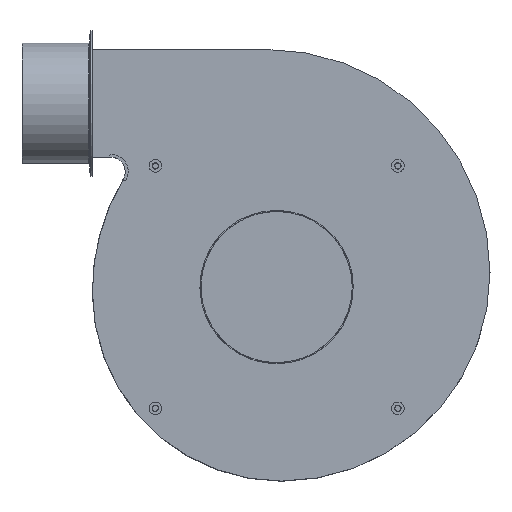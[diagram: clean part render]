
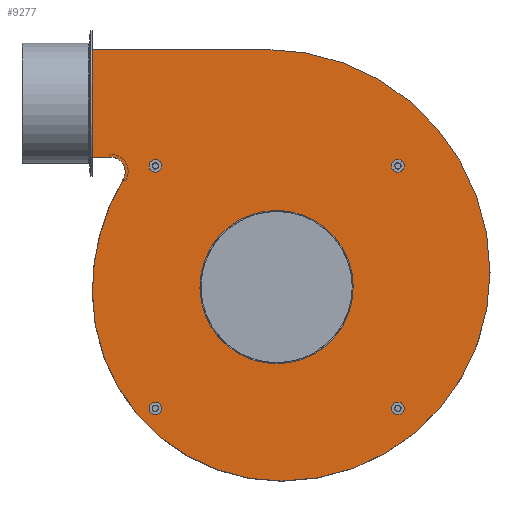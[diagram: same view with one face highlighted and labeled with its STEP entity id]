
A CAD part, top view. The second image highlights one B-rep face of the part: STEP entity #9277.
In plain terms, the highlighted planar face has unit normal (0, 0, 1).
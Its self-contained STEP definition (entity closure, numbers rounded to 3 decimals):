
#77=PLANE('',#9576);
#221=CIRCLE('',#9577,230.);
#222=CIRCLE('',#9578,15.);
#223=CIRCLE('',#9579,227.);
#224=CIRCLE('',#9580,195.);
#225=CIRCLE('',#9581,215.);
#226=CIRCLE('',#9582,6.5);
#227=CIRCLE('',#9583,6.5);
#228=CIRCLE('',#9584,6.5);
#229=CIRCLE('',#9585,6.5);
#230=CIRCLE('',#9586,79.);
#368=FACE_BOUND('',#1544,.T.);
#369=FACE_BOUND('',#1545,.T.);
#370=FACE_BOUND('',#1546,.T.);
#371=FACE_BOUND('',#1547,.T.);
#372=FACE_BOUND('',#1548,.T.);
#1003=FACE_OUTER_BOUND('',#1543,.T.);
#1543=EDGE_LOOP('',(#8051,#8052,#8053,#8054,#8055,#8056,#8057,#8058));
#1544=EDGE_LOOP('',(#8059));
#1545=EDGE_LOOP('',(#8060));
#1546=EDGE_LOOP('',(#8061));
#1547=EDGE_LOOP('',(#8062));
#1548=EDGE_LOOP('',(#8063));
#2161=LINE('',#21836,#2742);
#2162=LINE('',#21838,#2743);
#2163=LINE('',#21840,#2744);
#2742=VECTOR('',#10618,10.);
#2743=VECTOR('',#10619,10.);
#2744=VECTOR('',#10620,10.);
#4209=VERTEX_POINT('',#21832);
#4210=VERTEX_POINT('',#21833);
#4211=VERTEX_POINT('',#21835);
#4212=VERTEX_POINT('',#21837);
#4213=VERTEX_POINT('',#21839);
#4214=VERTEX_POINT('',#21841);
#4215=VERTEX_POINT('',#21843);
#4216=VERTEX_POINT('',#21845);
#4217=VERTEX_POINT('',#21848);
#4218=VERTEX_POINT('',#21850);
#4219=VERTEX_POINT('',#21852);
#4220=VERTEX_POINT('',#21854);
#4221=VERTEX_POINT('',#21856);
#5526=EDGE_CURVE('',#4209,#4210,#221,.T.);
#5527=EDGE_CURVE('',#4211,#4209,#2161,.T.);
#5528=EDGE_CURVE('',#4212,#4211,#2162,.T.);
#5529=EDGE_CURVE('',#4213,#4212,#2163,.T.);
#5530=EDGE_CURVE('',#4214,#4213,#222,.T.);
#5531=EDGE_CURVE('',#4215,#4214,#223,.T.);
#5532=EDGE_CURVE('',#4216,#4215,#224,.T.);
#5533=EDGE_CURVE('',#4210,#4216,#225,.T.);
#5534=EDGE_CURVE('',#4217,#4217,#226,.T.);
#5535=EDGE_CURVE('',#4218,#4218,#227,.T.);
#5536=EDGE_CURVE('',#4219,#4219,#228,.T.);
#5537=EDGE_CURVE('',#4220,#4220,#229,.T.);
#5538=EDGE_CURVE('',#4221,#4221,#230,.T.);
#8051=ORIENTED_EDGE('',*,*,#5526,.F.);
#8052=ORIENTED_EDGE('',*,*,#5527,.F.);
#8053=ORIENTED_EDGE('',*,*,#5528,.F.);
#8054=ORIENTED_EDGE('',*,*,#5529,.F.);
#8055=ORIENTED_EDGE('',*,*,#5530,.F.);
#8056=ORIENTED_EDGE('',*,*,#5531,.F.);
#8057=ORIENTED_EDGE('',*,*,#5532,.F.);
#8058=ORIENTED_EDGE('',*,*,#5533,.F.);
#8059=ORIENTED_EDGE('',*,*,#5534,.T.);
#8060=ORIENTED_EDGE('',*,*,#5535,.T.);
#8061=ORIENTED_EDGE('',*,*,#5536,.T.);
#8062=ORIENTED_EDGE('',*,*,#5537,.T.);
#8063=ORIENTED_EDGE('',*,*,#5538,.T.);
#9277=ADVANCED_FACE('',(#1003,#368,#369,#370,#371,#372),#77,.F.);
#9576=AXIS2_PLACEMENT_3D('',#21831,#10614,#10615);
#9577=AXIS2_PLACEMENT_3D('',#21834,#10616,#10617);
#9578=AXIS2_PLACEMENT_3D('',#21842,#10621,#10622);
#9579=AXIS2_PLACEMENT_3D('',#21844,#10623,#10624);
#9580=AXIS2_PLACEMENT_3D('',#21846,#10625,#10626);
#9581=AXIS2_PLACEMENT_3D('',#21847,#10627,#10628);
#9582=AXIS2_PLACEMENT_3D('',#21849,#10629,#10630);
#9583=AXIS2_PLACEMENT_3D('',#21851,#10631,#10632);
#9584=AXIS2_PLACEMENT_3D('',#21853,#10633,#10634);
#9585=AXIS2_PLACEMENT_3D('',#21855,#10635,#10636);
#9586=AXIS2_PLACEMENT_3D('',#21857,#10637,#10638);
#10614=DIRECTION('center_axis',(0.,0.,-1.));
#10615=DIRECTION('ref_axis',(-1.,0.,0.));
#10616=DIRECTION('center_axis',(0.,0.,-1.));
#10617=DIRECTION('ref_axis',(-1.,0.,0.));
#10618=DIRECTION('',(1.,0.,0.));
#10619=DIRECTION('',(0.,1.,0.));
#10620=DIRECTION('',(-1.,0.,0.));
#10621=DIRECTION('center_axis',(0.,0.,1.));
#10622=DIRECTION('ref_axis',(0.,1.,0.));
#10623=DIRECTION('center_axis',(0.,0.,-1.));
#10624=DIRECTION('ref_axis',(1.,-0.004,0.));
#10625=DIRECTION('center_axis',(0.,0.,-1.));
#10626=DIRECTION('ref_axis',(0.807,-0.59,0.));
#10627=DIRECTION('center_axis',(0.,0.,-1.));
#10628=DIRECTION('ref_axis',(0.,1.,0.));
#10629=DIRECTION('center_axis',(0.,0.,-1.));
#10630=DIRECTION('ref_axis',(1.,0.,0.));
#10631=DIRECTION('center_axis',(0.,0.,-1.));
#10632=DIRECTION('ref_axis',(0.,1.,0.));
#10633=DIRECTION('center_axis',(0.,0.,-1.));
#10634=DIRECTION('ref_axis',(-1.,0.,0.));
#10635=DIRECTION('center_axis',(0.,0.,-1.));
#10636=DIRECTION('ref_axis',(0.,-1.,0.));
#10637=DIRECTION('center_axis',(0.,0.,-1.));
#10638=DIRECTION('ref_axis',(0.019,-1.,0.));
#21831=CARTESIAN_POINT('Origin',(1622.753,510.499,1.5));
#21832=CARTESIAN_POINT('',(1612.753,755.499,1.5));
#21833=CARTESIAN_POINT('',(1842.753,525.499,1.5));
#21834=CARTESIAN_POINT('Origin',(1612.753,525.499,1.5));
#21835=CARTESIAN_POINT('',(1432.753,755.499,1.5));
#21836=CARTESIAN_POINT('',(1432.753,755.499,1.5));
#21837=CARTESIAN_POINT('',(1432.753,644.499,1.5));
#21838=CARTESIAN_POINT('',(1432.753,750.499,1.5));
#21839=CARTESIAN_POINT('',(1451.755,644.499,1.5));
#21840=CARTESIAN_POINT('',(1458.272,644.499,1.5));
#21841=CARTESIAN_POINT('',(1464.648,621.832,1.5));
#21842=CARTESIAN_POINT('Origin',(1451.755,629.499,1.5));
#21843=CARTESIAN_POINT('',(1432.754,505.997,1.5));
#21844=CARTESIAN_POINT('Origin',(1659.754,505.803,1.5));
#21845=CARTESIAN_POINT('',(1627.753,310.499,1.5));
#21846=CARTESIAN_POINT('Origin',(1627.753,505.499,1.5));
#21847=CARTESIAN_POINT('Origin',(1627.753,525.499,1.5));
#21848=CARTESIAN_POINT('',(1504.253,635.499,1.5));
#21849=CARTESIAN_POINT('Origin',(1497.753,635.499,1.5));
#21850=CARTESIAN_POINT('',(1497.753,391.999,1.5));
#21851=CARTESIAN_POINT('Origin',(1497.753,385.499,1.5));
#21852=CARTESIAN_POINT('',(1741.253,385.499,1.5));
#21853=CARTESIAN_POINT('Origin',(1747.753,385.499,1.5));
#21854=CARTESIAN_POINT('',(1747.753,628.999,1.5));
#21855=CARTESIAN_POINT('Origin',(1747.753,635.499,1.5));
#21856=CARTESIAN_POINT('',(1621.232,589.484,1.5));
#21857=CARTESIAN_POINT('Origin',(1622.753,510.499,1.5));
